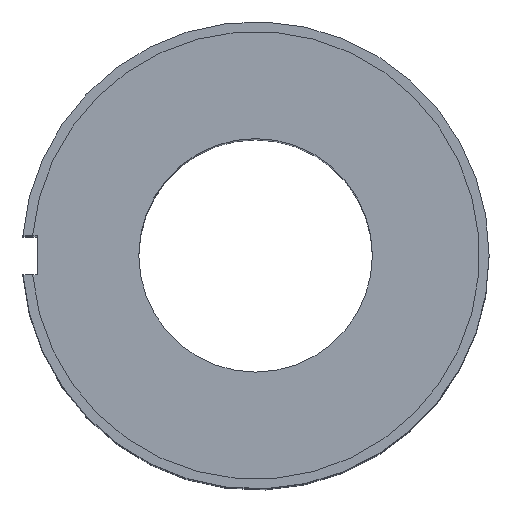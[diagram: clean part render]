
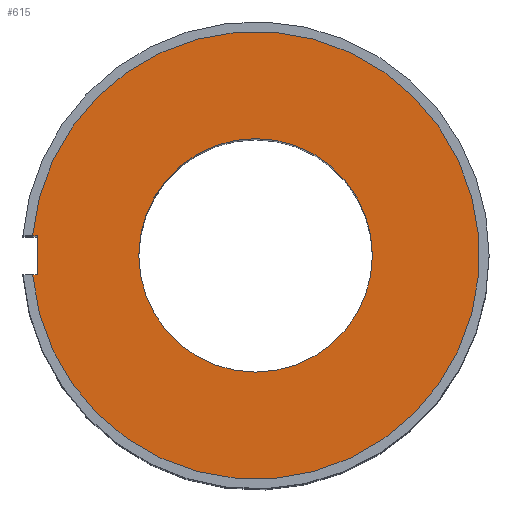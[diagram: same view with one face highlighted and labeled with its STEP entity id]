
A CAD part, top view. The second image highlights one B-rep face of the part: STEP entity #615.
In plain terms, the highlighted planar face has unit normal (0, 0, 1).
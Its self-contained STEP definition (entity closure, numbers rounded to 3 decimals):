
#91=CARTESIAN_POINT('',(-3.,0.,19.0));
#92=VERTEX_POINT('',#91);
#101=CARTESIAN_POINT('',(3.,0.,19.0));
#102=VERTEX_POINT('',#101);
#103=CARTESIAN_POINT('',(0.0,0.0,19.0));
#104=DIRECTION('',(0.0,0.0,-1.0));
#105=DIRECTION('',(-1.0,0.0,0.0));
#106=AXIS2_PLACEMENT_3D('',#103,#104,#105);
#107=CIRCLE('',#106,3.);
#108=EDGE_CURVE('',#102,#92,#107,.T.);
#385=CARTESIAN_POINT('',(-5.728,-0.5,19.0));
#386=VERTEX_POINT('',#385);
#393=CARTESIAN_POINT('',(-5.6,-0.5,19.0));
#394=VERTEX_POINT('',#393);
#395=CARTESIAN_POINT('',(-5.6,-0.5,19.0));
#396=DIRECTION('',(-1.0,0.0,0.0));
#397=VECTOR('',#396,0.128);
#398=LINE('',#395,#397);
#399=EDGE_CURVE('',#394,#386,#398,.T.);
#533=CARTESIAN_POINT('',(-5.6,0.5,19.0));
#534=VERTEX_POINT('',#533);
#541=CARTESIAN_POINT('',(-5.728,0.5,19.0));
#542=VERTEX_POINT('',#541);
#543=CARTESIAN_POINT('',(-5.728,0.5,19.0));
#544=DIRECTION('',(1.0,0.0,0.0));
#545=VECTOR('',#544,0.128);
#546=LINE('',#543,#545);
#547=EDGE_CURVE('',#542,#534,#546,.T.);
#578=CARTESIAN_POINT('',(-5.6,0.5,19.0));
#579=DIRECTION('',(0.0,-1.0,0.0));
#580=VECTOR('',#579,1.0);
#581=LINE('',#578,#580);
#582=EDGE_CURVE('',#534,#394,#581,.T.);
#588=CARTESIAN_POINT('',(0.0,0.0,19.0));
#589=DIRECTION('',(0.0,0.0,-1.0));
#590=DIRECTION('',(-1.0,0.0,0.0));
#591=AXIS2_PLACEMENT_3D('',#588,#589,#590);
#592=PLANE('',#591);
#593=ORIENTED_EDGE('',*,*,#547,.T.);
#594=ORIENTED_EDGE('',*,*,#582,.T.);
#595=ORIENTED_EDGE('',*,*,#399,.T.);
#596=CARTESIAN_POINT('',(0.0,0.0,19.0));
#597=DIRECTION('',(0.0,0.0,-1.0));
#598=DIRECTION('',(1.0,0.0,0.0));
#599=AXIS2_PLACEMENT_3D('',#596,#597,#598);
#600=CIRCLE('',#599,5.75);
#601=EDGE_CURVE('',#542,#386,#600,.T.);
#602=ORIENTED_EDGE('',*,*,#601,.F.);
#603=EDGE_LOOP('',(#593,#594,#595,#602));
#604=FACE_OUTER_BOUND('',#603,.T.);
#605=ORIENTED_EDGE('',*,*,#108,.T.);
#606=CARTESIAN_POINT('',(0.0,0.0,19.0));
#607=DIRECTION('',(0.0,0.0,-1.0));
#608=DIRECTION('',(-1.0,0.0,0.0));
#609=AXIS2_PLACEMENT_3D('',#606,#607,#608);
#610=CIRCLE('',#609,3.);
#611=EDGE_CURVE('',#92,#102,#610,.T.);
#612=ORIENTED_EDGE('',*,*,#611,.T.);
#613=EDGE_LOOP('',(#605,#612));
#614=FACE_BOUND('',#613,.T.);
#615=ADVANCED_FACE('',(#604,#614),#592,.F.);
